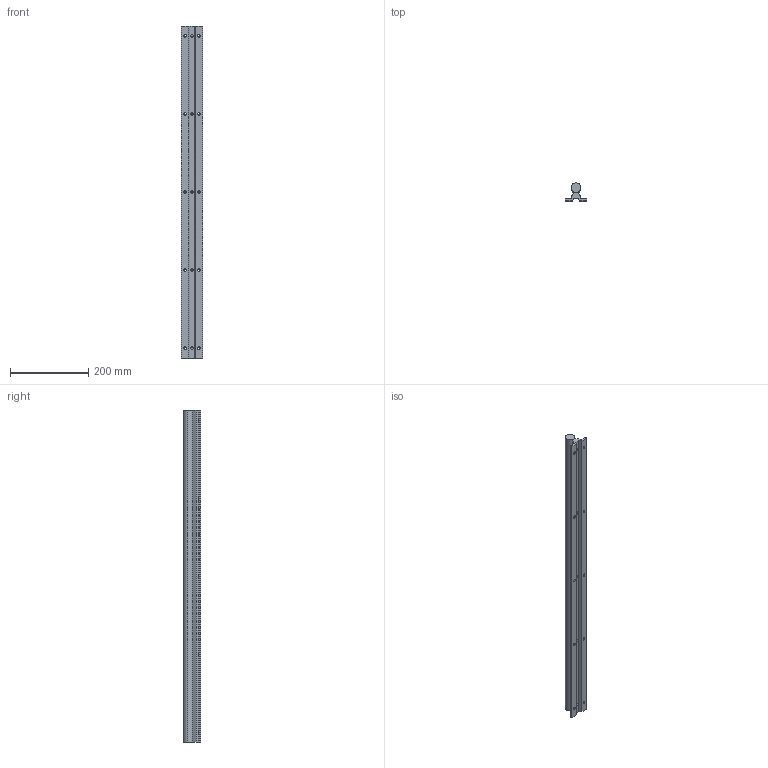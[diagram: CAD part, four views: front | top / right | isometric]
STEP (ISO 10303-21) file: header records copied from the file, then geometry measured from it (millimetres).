
FILE_DESCRIPTION (( 'STEP AP214' ), '1' );
FILE_NAME ('SBR25-850.STEP', '2025-09-17T14:41:10', ( '' ), ( '' ), 'SwSTEP 2.0', 'SolidWorks 2019', '' );
FILE_SCHEMA (( 'AUTOMOTIVE_DESIGN' ));
Length unit declared in the file: millimetre
Products named in the file (1): SBR25-850
Bounding box: 55 x 45.5 x 850 mm (x, y, z)
Volume: 797525.9 mm3; surface area: 200106.9 mm2
Topology: 2 solids, 2 shells, 80 faces, 218 edges, 142 vertices
Faces by surface type: cylinder 54, plane 26
Entity records: 2953 total; most frequent: CARTESIAN_POINT 791, DIRECTION 448, ORIENTED_EDGE 436, EDGE_CURVE 218, AXIS2_PLACEMENT_3D 169, VERTEX_POINT 142, EDGE_LOOP 110, LINE 110
